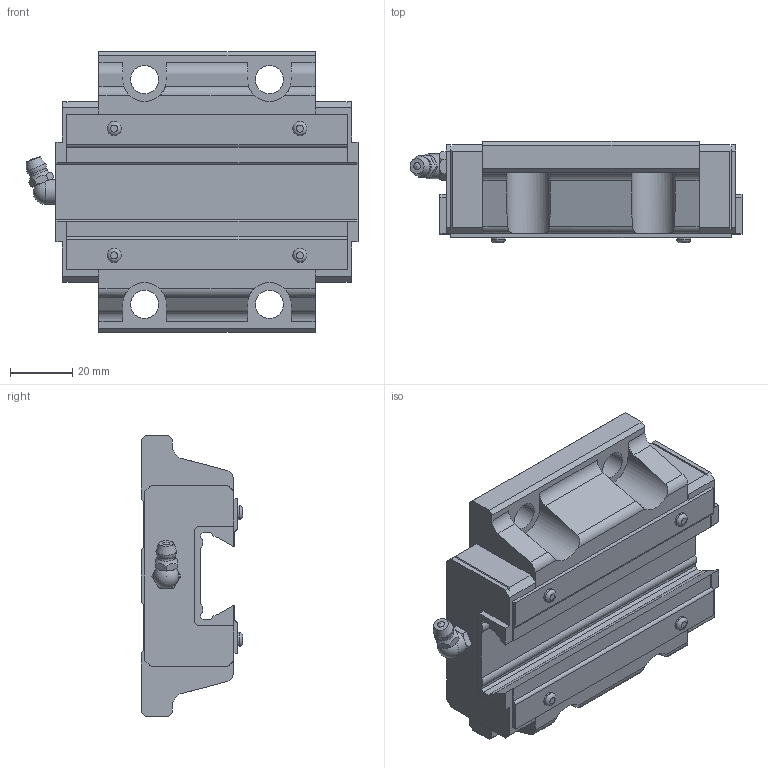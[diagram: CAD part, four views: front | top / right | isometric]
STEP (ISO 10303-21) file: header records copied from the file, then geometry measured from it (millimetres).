
FILE_DESCRIPTION(/* description */ ('STEP AP214'),/* implementation_level */ '2;1');
FILE_NAME(/* name */ 'SR30TB1SS(GK) BLOCK(B-M6F)',/* time_stamp */ '2023-06-01T08:30:42+02:00',/* author */ ('License CC BY-ND 4.0'),/* organization */ ('CADENAS'),/* preprocessor_version */ 'ST-DEVELOPER v19.3',/* originating_system */ 'PARTsolutions',/* authorisation */ ' ');
FILE_SCHEMA (('AUTOMOTIVE_DESIGN {1 0 10303 214 3 1 1}'));
Length unit declared in the file: millimetre
Products named in the file (3): SR30TB1SS(GK) BLOCK(B-M6F); SR-B-M6F_grease_nipple_joint; SR30TBSSB-M6F S
Assembly tree (2 placements, depth 2):
  SR30TB1SS(GK) BLOCK(B-M6F)
    SR-B-M6F_grease_nipple_joint
    SR30TBSSB-M6F S
Bounding box: 106.4 x 32.5 x 90 mm (x, y, z)
Volume: 168146.2 mm3; surface area: 30129.6 mm2
Topology: 2 solids, 2 shells, 190 faces, 520 edges, 339 vertices
Faces by surface type: plane 134, cylinder 34, cone 13, torus 6, sphere 3
Full cylindrical faces by diameter (mm): 4.5 x4, 4.917 x2, 6 x1, 8 x1, 9 x4
Entity records: 5913 total; most frequent: CARTESIAN_POINT 1146, ORIENTED_EDGE 968, DIRECTION 932, EDGE_CURVE 484, LINE 358, VECTOR 358, VERTEX_POINT 333, AXIS2_PLACEMENT_3D 287
